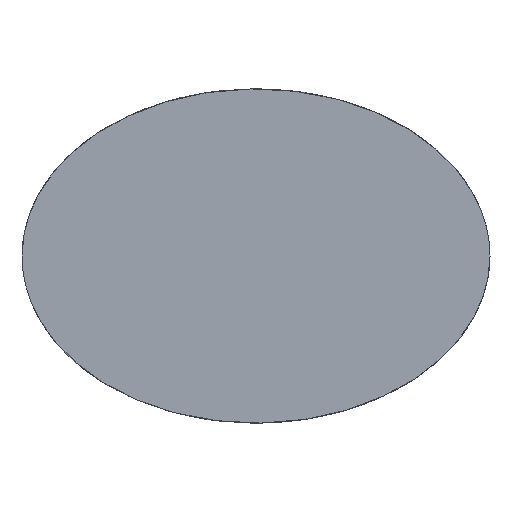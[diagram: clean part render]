
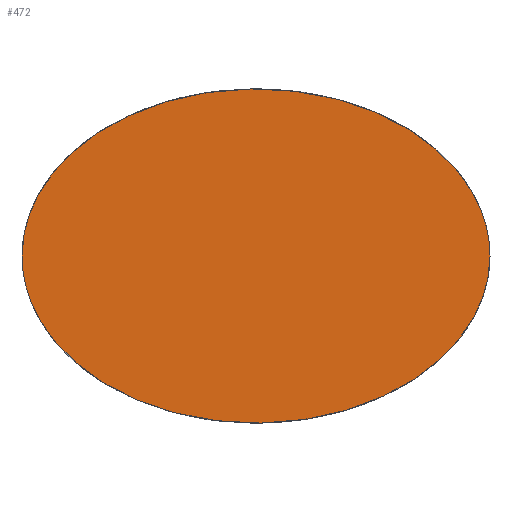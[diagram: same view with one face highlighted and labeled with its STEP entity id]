
A CAD part, front view. The second image highlights one B-rep face of the part: STEP entity #472.
In plain terms, the highlighted planar face has unit normal (0, -1, 0).
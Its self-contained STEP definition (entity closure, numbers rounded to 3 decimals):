
#3 =( BOUNDED_CURVE ( )  B_SPLINE_CURVE ( 3, ( #187, #162, #153, #150 ),
 .UNSPECIFIED., .F., .T. ) 
 B_SPLINE_CURVE_WITH_KNOTS ( ( 4, 4 ),
 ( 3.142, 6.283 ),
 .UNSPECIFIED. ) 
 CURVE ( )  GEOMETRIC_REPRESENTATION_ITEM ( )  RATIONAL_B_SPLINE_CURVE ( ( 1., 0.333, 0.333, 1. ) ) 
 REPRESENTATION_ITEM ( '' )  );
#39 =( BOUNDED_CURVE ( )  B_SPLINE_CURVE ( 3, ( #464, #463, #1274, #1275 ),
 .UNSPECIFIED., .F., .T. ) 
 B_SPLINE_CURVE_WITH_KNOTS ( ( 4, 4 ),
 ( 0., 3.142 ),
 .UNSPECIFIED. ) 
 CURVE ( )  GEOMETRIC_REPRESENTATION_ITEM ( )  RATIONAL_B_SPLINE_CURVE ( ( 1., 0.333, 0.333, 1. ) ) 
 REPRESENTATION_ITEM ( '' )  );
#104 = CARTESIAN_POINT ( 'NONE',  ( -17.5, 0., 0. ) ) ;
#118 = CARTESIAN_POINT ( 'NONE',  ( 17.5, 0., 0. ) ) ;
#150 = CARTESIAN_POINT ( 'NONE',  ( -17.5, 0., 0. ) ) ;
#153 = CARTESIAN_POINT ( 'NONE',  ( -17.5, 0., -25. ) ) ;
#162 = CARTESIAN_POINT ( 'NONE',  ( 17.5, 0., -25. ) ) ;
#187 = CARTESIAN_POINT ( 'NONE',  ( 17.5, 0., 0. ) ) ;
#463 = CARTESIAN_POINT ( 'NONE',  ( -17.5, 0., 25. ) ) ;
#464 = CARTESIAN_POINT ( 'NONE',  ( -17.5, 0., 0. ) ) ;
#472 = ADVANCED_FACE ( 'NONE', ( #1148 ), #918, .F. ) ;
#815 = ORIENTED_EDGE ( 'NONE', *, *, #1537, .F. ) ;
#822 = ORIENTED_EDGE ( 'NONE', *, *, #1616, .F. ) ;
#875 = CARTESIAN_POINT ( 'NONE',  ( 0., 0., 0. ) ) ;
#910 = DIRECTION ( 'NONE',  ( 0., 1., 0. ) ) ;
#913 = DIRECTION ( 'NONE',  ( 0., 0., 1. ) ) ;
#918 = PLANE ( 'NONE',  #1644 ) ;
#1036 = EDGE_LOOP ( 'NONE', ( #822, #815 ) ) ;
#1116 = VERTEX_POINT ( 'NONE', #118 ) ;
#1133 = VERTEX_POINT ( 'NONE', #104 ) ;
#1148 = FACE_OUTER_BOUND ( 'NONE', #1036, .T. ) ;
#1274 = CARTESIAN_POINT ( 'NONE',  ( 17.5, 0., 25. ) ) ;
#1275 = CARTESIAN_POINT ( 'NONE',  ( 17.5, 0., 0. ) ) ;
#1537 = EDGE_CURVE ( 'NONE', #1116, #1133, #3, .T. ) ;
#1616 = EDGE_CURVE ( 'NONE', #1133, #1116, #39, .T. ) ;
#1644 = AXIS2_PLACEMENT_3D ( 'NONE', #875, #910, #913 ) ;
